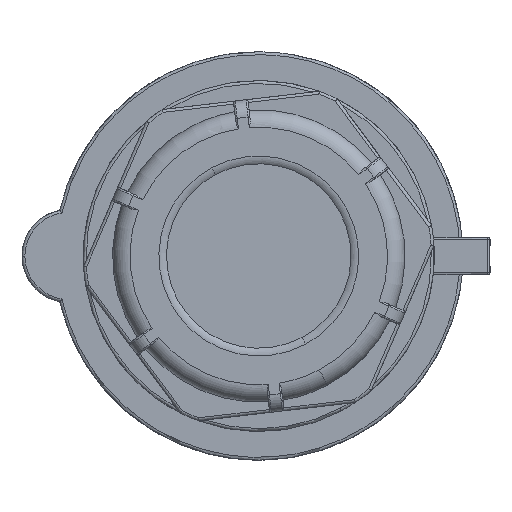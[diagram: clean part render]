
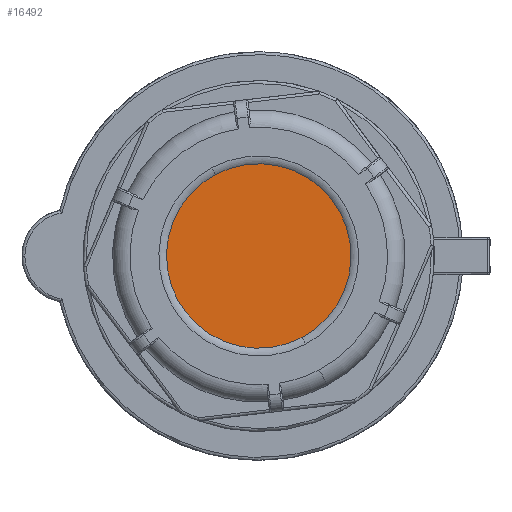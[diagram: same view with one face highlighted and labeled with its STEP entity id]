
A CAD part, front view. The second image highlights one B-rep face of the part: STEP entity #16492.
In plain terms, the highlighted planar face has unit normal (0, -1, 0).
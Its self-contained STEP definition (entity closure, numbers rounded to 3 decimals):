
#1178 = CARTESIAN_POINT ( 'NONE',  ( 187.233, -106.02, 0. ) ) ;
#1265 = DIRECTION ( 'NONE',  ( 0., 0., -1. ) ) ;
#1909 = VERTEX_POINT ( 'NONE', #14094 ) ;
#2890 = EDGE_CURVE ( 'NONE', #14135, #1909, #9814, .T. ) ;
#3697 = AXIS2_PLACEMENT_3D ( 'NONE', #14806, #16323, #8939 ) ;
#4006 = AXIS2_PLACEMENT_3D ( 'NONE', #1178, #18250, #1265 ) ;
#5760 = ORIENTED_EDGE ( 'NONE', *, *, #10841, .T. ) ;
#7461 = CARTESIAN_POINT ( 'NONE',  ( 187.233, -106.02, 0. ) ) ;
#7568 = CARTESIAN_POINT ( 'NONE',  ( 179.767, -106.02, 14.038 ) ) ;
#8939 = DIRECTION ( 'NONE',  ( 0., 0., 1. ) ) ;
#9233 = ORIENTED_EDGE ( 'NONE', *, *, #2890, .T. ) ;
#9389 = EDGE_LOOP ( 'NONE', ( #5760, #9233 ) ) ;
#9814 = CIRCLE ( 'NONE', #12556, 15.899 ) ;
#10399 = DIRECTION ( 'NONE',  ( 0., 0., 1. ) ) ;
#10841 = EDGE_CURVE ( 'NONE', #1909, #14135, #17620, .T. ) ;
#12556 = AXIS2_PLACEMENT_3D ( 'NONE', #7461, #13248, #10399 ) ;
#13248 = DIRECTION ( 'NONE',  ( 0., -1., 0. ) ) ;
#14071 = FACE_OUTER_BOUND ( 'NONE', #9389, .T. ) ;
#14094 = CARTESIAN_POINT ( 'NONE',  ( 194.698, -106.02, -14.038 ) ) ;
#14135 = VERTEX_POINT ( 'NONE', #7568 ) ;
#14806 = CARTESIAN_POINT ( 'NONE',  ( 187.233, -106.02, 0. ) ) ;
#15402 = PLANE ( 'NONE',  #4006 ) ;
#16323 = DIRECTION ( 'NONE',  ( 0., -1., 0. ) ) ;
#16492 = ADVANCED_FACE ( 'NONE', ( #14071 ), #15402, .T. ) ;
#17620 = CIRCLE ( 'NONE', #3697, 15.899 ) ;
#18250 = DIRECTION ( 'NONE',  ( 0., -1., 0. ) ) ;
